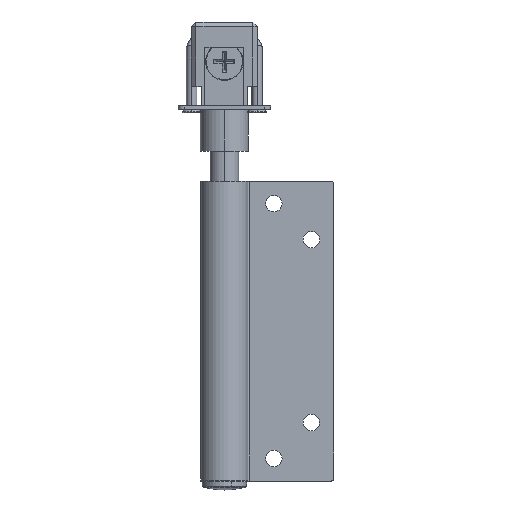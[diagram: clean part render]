
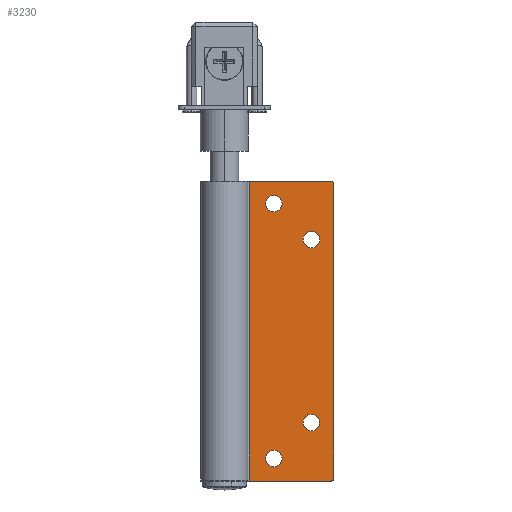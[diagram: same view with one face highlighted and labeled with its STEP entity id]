
A CAD part, top view. The second image highlights one B-rep face of the part: STEP entity #3230.
In plain terms, the highlighted planar face has unit normal (0, 0, 1) as drawn and (1, 0, 0) by its records, which use the part's own axes.
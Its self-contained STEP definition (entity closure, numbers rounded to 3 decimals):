
#83 = AXIS2_PLACEMENT_3D ( 'NONE', #2828, #4575, #677 ) ;
#90 = DIRECTION ( 'NONE',  ( 0., 0., 1. ) ) ;
#103 = LINE ( 'NONE', #4851, #3917 ) ;
#145 = VERTEX_POINT ( 'NONE', #1463 ) ;
#229 = LINE ( 'NONE', #4187, #2626 ) ;
#239 = ORIENTED_EDGE ( 'NONE', *, *, #2623, .T. ) ;
#256 = CIRCLE ( 'NONE', #3159, 2.75 ) ;
#317 = CARTESIAN_POINT ( 'NONE',  ( 37.336, 40.609, 29.223 ) ) ;
#348 = EDGE_CURVE ( 'NONE', #4543, #2688, #229, .T. ) ;
#350 = ORIENTED_EDGE ( 'NONE', *, *, #3453, .T. ) ;
#385 = CARTESIAN_POINT ( 'NONE',  ( 37.336, 60.109, 35.723 ) ) ;
#417 = ORIENTED_EDGE ( 'NONE', *, *, #5324, .T. ) ;
#588 = ORIENTED_EDGE ( 'NONE', *, *, #5395, .T. ) ;
#599 = CARTESIAN_POINT ( 'NONE',  ( 37.336, -20.391, 29.223 ) ) ;
#662 = CARTESIAN_POINT ( 'NONE',  ( 37.336, -32.391, 16.723 ) ) ;
#666 = ORIENTED_EDGE ( 'NONE', *, *, #2287, .T. ) ;
#677 = DIRECTION ( 'NONE',  ( 0., 0., 1. ) ) ;
#786 = FACE_BOUND ( 'NONE', #3929, .T. ) ;
#808 = EDGE_LOOP ( 'NONE', ( #1995, #350 ) ) ;
#907 = VECTOR ( 'NONE', #4230, 1000. ) ;
#939 = AXIS2_PLACEMENT_3D ( 'NONE', #599, #2290, #961 ) ;
#961 = DIRECTION ( 'NONE',  ( 0., 0., 1. ) ) ;
#1070 = CARTESIAN_POINT ( 'NONE',  ( 37.336, -32.391, 13.973 ) ) ;
#1086 = CARTESIAN_POINT ( 'NONE',  ( 37.336, -38.891, 35.723 ) ) ;
#1152 = AXIS2_PLACEMENT_3D ( 'NONE', #5137, #5166, #5482 ) ;
#1213 = DIRECTION ( 'NONE',  ( -1., 0., 0. ) ) ;
#1349 = CARTESIAN_POINT ( 'NONE',  ( 37.336, -20.391, 31.973 ) ) ;
#1358 = CARTESIAN_POINT ( 'NONE',  ( 37.336, 52.609, 16.723 ) ) ;
#1396 = CIRCLE ( 'NONE', #939, 2.75 ) ;
#1429 = CARTESIAN_POINT ( 'NONE',  ( 37.336, 52.609, 16.723 ) ) ;
#1463 = CARTESIAN_POINT ( 'NONE',  ( 37.336, 40.609, 31.973 ) ) ;
#1486 = CIRCLE ( 'NONE', #2664, 2.75 ) ;
#1551 = CARTESIAN_POINT ( 'NONE',  ( 37.336, 60.109, 8.573 ) ) ;
#1589 = VERTEX_POINT ( 'NONE', #2884 ) ;
#1602 = EDGE_LOOP ( 'NONE', ( #666, #239 ) ) ;
#1733 = LINE ( 'NONE', #5189, #907 ) ;
#1848 = EDGE_LOOP ( 'NONE', ( #588, #417, #3458, #3743, #5484, #2058 ) ) ;
#1859 = DIRECTION ( 'NONE',  ( -1., 0., 0. ) ) ;
#1964 = DIRECTION ( 'NONE',  ( 1., 0., 0. ) ) ;
#1995 = ORIENTED_EDGE ( 'NONE', *, *, #4080, .T. ) ;
#2010 = CARTESIAN_POINT ( 'NONE',  ( 37.336, -32.391, 16.723 ) ) ;
#2012 = CARTESIAN_POINT ( 'NONE',  ( 37.336, 60.109, 8.573 ) ) ;
#2058 = ORIENTED_EDGE ( 'NONE', *, *, #4524, .T. ) ;
#2065 = DIRECTION ( 'NONE',  ( 0., 0., 1. ) ) ;
#2146 = DIRECTION ( 'NONE',  ( 0., 0., -1. ) ) ;
#2147 = DIRECTION ( 'NONE',  ( 0., 0., -1. ) ) ;
#2155 = AXIS2_PLACEMENT_3D ( 'NONE', #317, #1213, #3737 ) ;
#2162 = AXIS2_PLACEMENT_3D ( 'NONE', #1429, #1859, #5373 ) ;
#2174 = CIRCLE ( 'NONE', #3373, 1. ) ;
#2187 = CARTESIAN_POINT ( 'NONE',  ( 37.336, 59.109, 36.723 ) ) ;
#2249 = CARTESIAN_POINT ( 'NONE',  ( 37.336, 40.609, 26.473 ) ) ;
#2287 = EDGE_CURVE ( 'NONE', #4175, #3513, #1486, .T. ) ;
#2290 = DIRECTION ( 'NONE',  ( -1., 0., 0. ) ) ;
#2294 = VERTEX_POINT ( 'NONE', #2012 ) ;
#2402 = CARTESIAN_POINT ( 'NONE',  ( 37.336, -38.891, 36.723 ) ) ;
#2416 = FACE_BOUND ( 'NONE', #1602, .T. ) ;
#2506 = FACE_BOUND ( 'NONE', #808, .T. ) ;
#2579 = VERTEX_POINT ( 'NONE', #385 ) ;
#2606 = CIRCLE ( 'NONE', #2162, 2.75 ) ;
#2623 = EDGE_CURVE ( 'NONE', #3513, #4175, #1396, .T. ) ;
#2626 = VECTOR ( 'NONE', #2147, 1000. ) ;
#2655 = VECTOR ( 'NONE', #5031, 1000. ) ;
#2664 = AXIS2_PLACEMENT_3D ( 'NONE', #2906, #2933, #4614 ) ;
#2683 = CARTESIAN_POINT ( 'NONE',  ( 37.336, -39.891, 8.573 ) ) ;
#2688 = VERTEX_POINT ( 'NONE', #2683 ) ;
#2748 = CARTESIAN_POINT ( 'NONE',  ( 37.336, -32.391, 19.473 ) ) ;
#2758 = DIRECTION ( 'NONE',  ( -1., 0., 0. ) ) ;
#2828 = CARTESIAN_POINT ( 'NONE',  ( 37.336, 59.109, 35.723 ) ) ;
#2847 = VERTEX_POINT ( 'NONE', #1070 ) ;
#2871 = EDGE_CURVE ( 'NONE', #2688, #2294, #5464, .T. ) ;
#2884 = CARTESIAN_POINT ( 'NONE',  ( 37.336, 52.609, 19.473 ) ) ;
#2906 = CARTESIAN_POINT ( 'NONE',  ( 37.336, -20.391, 29.223 ) ) ;
#2933 = DIRECTION ( 'NONE',  ( -1., 0., 0. ) ) ;
#3133 = DIRECTION ( 'NONE',  ( -1., 0., 0. ) ) ;
#3159 = AXIS2_PLACEMENT_3D ( 'NONE', #662, #2758, #3251 ) ;
#3168 = AXIS2_PLACEMENT_3D ( 'NONE', #2010, #4245, #2065 ) ;
#3208 = EDGE_CURVE ( 'NONE', #4783, #145, #4075, .T. ) ;
#3230 = ADVANCED_FACE ( 'NONE', ( #2416, #786, #2506, #3408, #4174 ), #4261, .F. ) ;
#3251 = DIRECTION ( 'NONE',  ( 0., 0., 1. ) ) ;
#3347 = ORIENTED_EDGE ( 'NONE', *, *, #3208, .T. ) ;
#3373 = AXIS2_PLACEMENT_3D ( 'NONE', #1086, #1964, #3717 ) ;
#3389 = CARTESIAN_POINT ( 'NONE',  ( 37.336, -39.891, 35.723 ) ) ;
#3408 = FACE_BOUND ( 'NONE', #4449, .T. ) ;
#3437 = ORIENTED_EDGE ( 'NONE', *, *, #5513, .T. ) ;
#3453 = EDGE_CURVE ( 'NONE', #2847, #4935, #256, .T. ) ;
#3458 = ORIENTED_EDGE ( 'NONE', *, *, #348, .T. ) ;
#3467 = ORIENTED_EDGE ( 'NONE', *, *, #4040, .T. ) ;
#3513 = VERTEX_POINT ( 'NONE', #5412 ) ;
#3708 = ORIENTED_EDGE ( 'NONE', *, *, #4294, .T. ) ;
#3717 = DIRECTION ( 'NONE',  ( 0., 0., 1. ) ) ;
#3737 = DIRECTION ( 'NONE',  ( 0., 0., 1. ) ) ;
#3743 = ORIENTED_EDGE ( 'NONE', *, *, #2871, .T. ) ;
#3830 = CIRCLE ( 'NONE', #4459, 2.75 ) ;
#3837 = DIRECTION ( 'NONE',  ( -1., 0., 0. ) ) ;
#3917 = VECTOR ( 'NONE', #2146, 1000. ) ;
#3929 = EDGE_LOOP ( 'NONE', ( #3437, #3708 ) ) ;
#3957 = VERTEX_POINT ( 'NONE', #2402 ) ;
#4040 = EDGE_CURVE ( 'NONE', #145, #4783, #4621, .T. ) ;
#4075 = CIRCLE ( 'NONE', #4975, 2.75 ) ;
#4080 = EDGE_CURVE ( 'NONE', #4935, #2847, #4984, .T. ) ;
#4174 = FACE_OUTER_BOUND ( 'NONE', #1848, .T. ) ;
#4175 = VERTEX_POINT ( 'NONE', #1349 ) ;
#4187 = CARTESIAN_POINT ( 'NONE',  ( 37.336, -39.891, 36.723 ) ) ;
#4230 = DIRECTION ( 'NONE',  ( 0., -1., 0. ) ) ;
#4245 = DIRECTION ( 'NONE',  ( -1., 0., 0. ) ) ;
#4261 = PLANE ( 'NONE',  #1152 ) ;
#4294 = EDGE_CURVE ( 'NONE', #5478, #1589, #2606, .T. ) ;
#4449 = EDGE_LOOP ( 'NONE', ( #3467, #3347 ) ) ;
#4459 = AXIS2_PLACEMENT_3D ( 'NONE', #1358, #3133, #90 ) ;
#4524 = EDGE_CURVE ( 'NONE', #2579, #5489, #4723, .T. ) ;
#4543 = VERTEX_POINT ( 'NONE', #3389 ) ;
#4575 = DIRECTION ( 'NONE',  ( 1., 0., 0. ) ) ;
#4614 = DIRECTION ( 'NONE',  ( 0., 0., 1. ) ) ;
#4621 = CIRCLE ( 'NONE', #2155, 2.75 ) ;
#4625 = CARTESIAN_POINT ( 'NONE',  ( 37.336, 40.609, 29.223 ) ) ;
#4723 = CIRCLE ( 'NONE', #83, 1. ) ;
#4783 = VERTEX_POINT ( 'NONE', #2249 ) ;
#4851 = CARTESIAN_POINT ( 'NONE',  ( 37.336, 60.109, 36.723 ) ) ;
#4935 = VERTEX_POINT ( 'NONE', #2748 ) ;
#4975 = AXIS2_PLACEMENT_3D ( 'NONE', #4625, #3837, #5542 ) ;
#4984 = CIRCLE ( 'NONE', #3168, 2.75 ) ;
#5031 = DIRECTION ( 'NONE',  ( 0., 1., 0. ) ) ;
#5124 = EDGE_CURVE ( 'NONE', #2579, #2294, #103, .T. ) ;
#5137 = CARTESIAN_POINT ( 'NONE',  ( 37.336, 60.109, 36.723 ) ) ;
#5166 = DIRECTION ( 'NONE',  ( -1., 0., 0. ) ) ;
#5189 = CARTESIAN_POINT ( 'NONE',  ( 37.336, 60.109, 36.723 ) ) ;
#5264 = CARTESIAN_POINT ( 'NONE',  ( 37.336, 52.609, 13.973 ) ) ;
#5324 = EDGE_CURVE ( 'NONE', #3957, #4543, #2174, .T. ) ;
#5373 = DIRECTION ( 'NONE',  ( 0., 0., 1. ) ) ;
#5395 = EDGE_CURVE ( 'NONE', #5489, #3957, #1733, .T. ) ;
#5412 = CARTESIAN_POINT ( 'NONE',  ( 37.336, -20.391, 26.473 ) ) ;
#5464 = LINE ( 'NONE', #1551, #2655 ) ;
#5478 = VERTEX_POINT ( 'NONE', #5264 ) ;
#5482 = DIRECTION ( 'NONE',  ( 0., 0., 1. ) ) ;
#5484 = ORIENTED_EDGE ( 'NONE', *, *, #5124, .F. ) ;
#5489 = VERTEX_POINT ( 'NONE', #2187 ) ;
#5513 = EDGE_CURVE ( 'NONE', #1589, #5478, #3830, .T. ) ;
#5542 = DIRECTION ( 'NONE',  ( 0., 0., 1. ) ) ;
